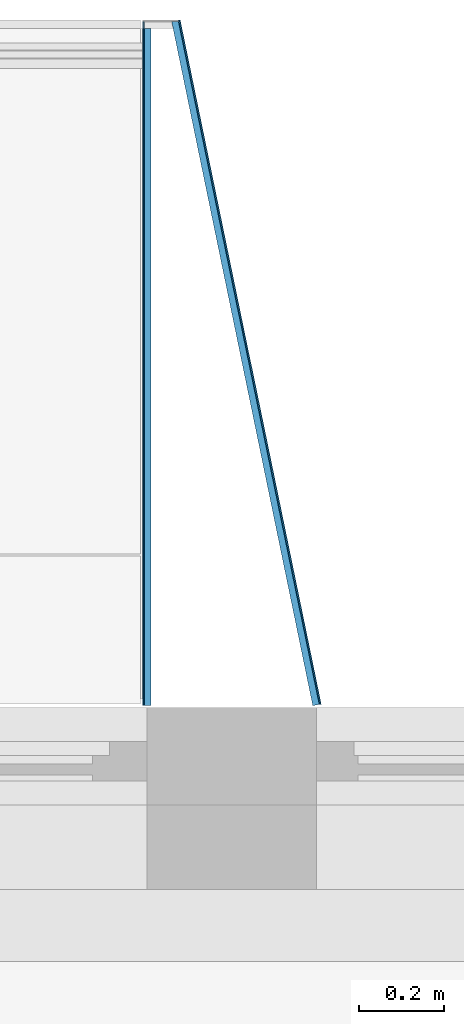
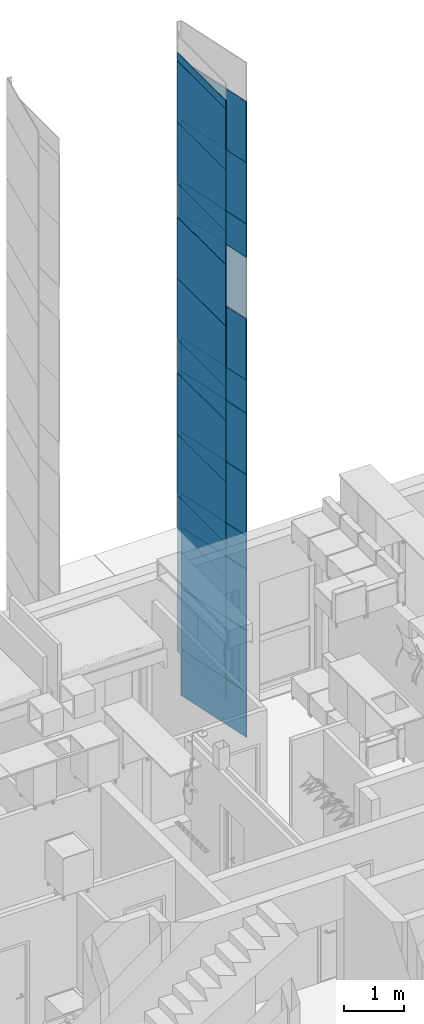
# One storey, part 23 of 125: 44 building element parts, 2 elements without a shape of their own.
"""IFC2X3 building model written with IfcOpenShell, lengths in millimetres."""

from ifc_helpers import new_model, entity, si_unit, converted_unit, direction, frame, frame_2d, origin, origin_2d_with_axis, place, context, subcontext, project, spatial, polyline, rectangle, outline, extrude, material, type_object, element, aggregate, save


model = new_model("IFC2X3")

# Units and contexts
model_context = context("Model", 3, precision=0.01, world=origin(), true_north=direction((6.123233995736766e-17, 1.0)))
plan_context = context("Plan", 3, precision=0.01, world=origin(), true_north=direction((6.123233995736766e-17, 1.0)))
body_context = subcontext(model_context, "Body", "Model", "MODEL_VIEW")
ifc_project = project(units=[si_unit("LENGTHUNIT", "METRE", prefix="MILLI"), converted_unit("PLANEANGLEUNIT", "DEGREE", entity("IfcPlaneAngleMeasure", 0.017453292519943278), si_unit("PLANEANGLEUNIT", "RADIAN"), dimensions=[0, 0, 0, 0, 0, 0, 0]), si_unit("AREAUNIT", "SQUARE_METRE")], contexts=[model_context, plan_context])

# Site, building, storey
site_placement = place(None, origin())
site = spatial("IfcSite", under=ifc_project, at=site_placement, Name="Default", CompositionType="ELEMENT")
building_placement = place(site_placement, origin())
building = spatial("IfcBuilding", under=site, at=building_placement, CompositionType="ELEMENT")
storey_placement = place(building_placement, frame((0.0, 0.0, 3125.0)))
storey = spatial("IfcBuildingStorey", under=building, at=storey_placement, Name="2K", CompositionType="ELEMENT", Elevation=3125.0)

# Wall, building element parts
wall_type = type_object("IfcWallType", Name="Basic Wall:VS-komposiit", PredefinedType="STANDARD")
wall_1_placement = place(storey_placement, frame((8626.138691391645, 15835.980173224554, -1010.0), z_axis=(0.0, 0.0, 1.0), x_axis=(-0.20198267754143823, 0.9793890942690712, 0.0)))
wall_1 = element("IfcWall", 1, at=wall_1_placement, inside=storey, type_object=wall_type, Name="Basic Wall:VS-komposiit", ObjectType="Basic Wall:VS-komposiit")
ifc_material_1 = material(Name="_K. Õhk. Roov. Fassaadikatte alusroov. Horisontaalne. 25 mm")
building_element_part_1_placement = place(wall_1_placement, origin())
building_element_part_1 = element("IfcBuildingElementPart", 2, at=building_element_part_1_placement, material=ifc_material_1, Name="Part", context=body_context, shape_type="SweptSolid", body=[
    extrude(outline(polyline([(158.09940945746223, -806.2118960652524), (174.4361239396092, -806.2118960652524), (-158.4326539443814, 807.8277574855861), (-174.10287945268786, 804.5960346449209), (158.09940945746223, -806.2118960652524)])), frame((823.1783473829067, 2.0, 6587.49999999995), z_axis=(0.0, 0.0, 1.0), x_axis=(0.20198267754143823, 0.9793890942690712, 0.0)), (0.0, 0.0, 1.0), 675.0000000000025),
])
building_element_part_2_placement = place(wall_1_placement, origin())
building_element_part_2 = element("IfcBuildingElementPart", 3, at=building_element_part_2_placement, material=ifc_material_1, Name="Part", context=body_context, shape_type="SweptSolid", body=[
    extrude(outline(polyline([(158.09940945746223, -806.2118960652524), (174.4361239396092, -806.2118960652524), (-158.4326539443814, 807.8277574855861), (-174.10287945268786, 804.5960346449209), (158.09940945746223, -806.2118960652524)])), frame((823.1783473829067, 2.0, 5342.49999999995), z_axis=(0.0, 0.0, 1.0), x_axis=(0.20198267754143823, 0.9793890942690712, 0.0)), (0.0, 0.0, 1.0), 1240.0000000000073),
])
building_element_part_3_placement = place(wall_1_placement, origin())
building_element_part_3 = element("IfcBuildingElementPart", 4, at=building_element_part_3_placement, material=ifc_material_1, Name="Part", context=body_context, shape_type="SweptSolid", body=[
    extrude(outline(polyline([(158.09940945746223, -806.2118960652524), (174.4361239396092, -806.2118960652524), (-158.4326539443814, 807.8277574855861), (-174.10287945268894, 804.5960346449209), (158.09940945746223, -806.2118960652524)])), frame((823.1783473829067, 2.0, 7267.499999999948), z_axis=(0.0, 0.0, 1.0), x_axis=(0.20198267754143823, 0.9793890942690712, 0.0)), (0.0, 0.0, 1.0), 1240.0000000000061),
])
building_element_part_4_placement = place(wall_1_placement, origin())
building_element_part_4 = element("IfcBuildingElementPart", 5, at=building_element_part_4_placement, material=ifc_material_1, Name="Part", context=body_context, shape_type="SweptSolid", body=[
    extrude(outline(polyline([(158.09940945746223, -806.2118960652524), (174.43612393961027, -806.2118960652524), (-158.4326539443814, 807.8277574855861), (-174.10287945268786, 804.5960346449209), (158.09940945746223, -806.2118960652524)])), frame((823.1783473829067, 2.0, 11682.499999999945), z_axis=(0.0, 0.0, 1.0), x_axis=(0.20198267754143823, 0.9793890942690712, 0.0)), (0.0, 0.0, 1.0), 1240.0000000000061),
])
building_element_part_5_placement = place(wall_1_placement, origin())
building_element_part_5 = element("IfcBuildingElementPart", 6, at=building_element_part_5_placement, material=ifc_material_1, Name="Part", context=body_context, shape_type="SweptSolid", body=[
    extrude(outline(polyline([(158.09940945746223, -806.2118960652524), (174.4361239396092, -806.2118960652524), (-158.4326539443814, 807.8277574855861), (-174.10287945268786, 804.5960346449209), (158.09940945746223, -806.2118960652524)])), frame((823.1783473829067, 2.0, 0.0), z_axis=(0.0, 0.0, 1.0), x_axis=(0.20198267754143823, 0.9793890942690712, 0.0)), (0.0, 0.0, 1.0), 922.4999999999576),
])
building_element_part_6_placement = place(wall_1_placement, origin())
building_element_part_6 = element("IfcBuildingElementPart", 7, at=building_element_part_6_placement, material=ifc_material_1, Name="Part", context=body_context, shape_type="SweptSolid", body=[
    extrude(outline(polyline([(158.09940945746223, -806.2118960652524), (174.4361239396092, -806.2118960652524), (-158.4326539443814, 807.8277574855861), (-174.10287945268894, 804.5960346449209), (158.09940945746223, -806.2118960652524)])), frame((823.1783473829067, 2.0, 3417.499999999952), z_axis=(0.0, 0.0, 1.0), x_axis=(0.20198267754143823, 0.9793890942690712, 0.0)), (0.0, 0.0, 1.0), 675.0000000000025),
])
building_element_part_7_placement = place(wall_1_placement, origin())
building_element_part_7 = element("IfcBuildingElementPart", 8, at=building_element_part_7_placement, material=ifc_material_1, Name="Part", context=body_context, shape_type="SweptSolid", body=[
    extrude(outline(polyline([(158.09940945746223, -806.2118960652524), (174.4361239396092, -806.2118960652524), (-158.4326539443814, 807.8277574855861), (-174.10287945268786, 804.5960346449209), (158.09940945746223, -806.2118960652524)])), frame((823.1783473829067, 2.0, 927.4999999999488), z_axis=(0.0, 0.0, 1.0), x_axis=(0.20198267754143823, 0.9793890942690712, 0.0)), (0.0, 0.0, 1.0), 1240.0000000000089),
])
building_element_part_8_placement = place(wall_1_placement, origin())
building_element_part_8 = element("IfcBuildingElementPart", 9, at=building_element_part_8_placement, material=ifc_material_1, Name="Part", context=body_context, shape_type="SweptSolid", body=[
    extrude(outline(polyline([(158.09940945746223, -806.2118960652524), (174.4361239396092, -806.2118960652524), (-158.4326539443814, 807.8277574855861), (-174.10287945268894, 804.5960346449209), (158.09940945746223, -806.2118960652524)])), frame((823.1783473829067, 2.0, 2172.49999999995), z_axis=(0.0, 0.0, 1.0), x_axis=(0.20198267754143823, 0.9793890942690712, 0.0)), (0.0, 0.0, 1.0), 1240.0000000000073),
])
building_element_part_9_placement = place(wall_1_placement, origin())
building_element_part_9 = element("IfcBuildingElementPart", 10, at=building_element_part_9_placement, material=ifc_material_1, Name="Part", context=body_context, shape_type="SweptSolid", body=[
    extrude(outline(polyline([(158.09940945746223, -806.2118960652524), (174.4361239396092, -806.2118960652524), (-158.4326539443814, 807.8277574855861), (-174.10287945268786, 804.5960346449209), (158.09940945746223, -806.2118960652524)])), frame((823.1783473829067, 2.0, 4097.499999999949), z_axis=(0.0, 0.0, 1.0), x_axis=(0.20198267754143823, 0.9793890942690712, 0.0)), (0.0, 0.0, 1.0), 1240.0000000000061),
])
ifc_material_2 = material(Name="_K. Välisviimistlus. Alumiinium-komposiitplaat")
building_element_part_10_placement = place(wall_1_placement, origin())
building_element_part_10 = element("IfcBuildingElementPart", 11, at=building_element_part_10_placement, material=ifc_material_2, Name="Part", context=body_context, shape_type="SweptSolid", body=[
    extrude(outline(polyline([(164.4298662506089, -807.2019826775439), (168.5140448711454, -807.2019826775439), (-164.51317737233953, 807.6059480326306), (-168.4307337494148, 806.7980173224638), (164.4298662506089, -807.2019826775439)])), frame((824.189270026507, -8.0, 8512.499999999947), z_axis=(0.0, 0.0, 1.0), x_axis=(0.20198267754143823, 0.9793890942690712, 0.0)), (0.0, 0.0, 1.0), 1240.0000000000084),
])
building_element_part_11_placement = place(wall_1_placement, origin())
building_element_part_11 = element("IfcBuildingElementPart", 12, at=building_element_part_11_placement, material=ifc_material_2, Name="Part", context=body_context, shape_type="SweptSolid", body=[
    extrude(outline(polyline([(164.4298662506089, -807.2019826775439), (168.5140448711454, -807.2019826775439), (-164.51317737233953, 807.6059480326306), (-168.4307337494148, 806.7980173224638), (164.4298662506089, -807.2019826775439)])), frame((824.189270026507, -8.0, 6587.49999999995), z_axis=(0.0, 0.0, 1.0), x_axis=(0.20198267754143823, 0.9793890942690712, 0.0)), (0.0, 0.0, 1.0), 675.0000000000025),
])
building_element_part_12_placement = place(wall_1_placement, origin())
building_element_part_12 = element("IfcBuildingElementPart", 13, at=building_element_part_12_placement, material=ifc_material_2, Name="Part", context=body_context, shape_type="SweptSolid", body=[
    extrude(outline(polyline([(164.4298662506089, -807.2019826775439), (168.5140448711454, -807.2019826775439), (-164.51317737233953, 807.6059480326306), (-168.4307337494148, 806.7980173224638), (164.4298662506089, -807.2019826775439)])), frame((824.189270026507, -8.0, 5342.49999999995), z_axis=(0.0, 0.0, 1.0), x_axis=(0.20198267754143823, 0.9793890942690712, 0.0)), (0.0, 0.0, 1.0), 1240.0000000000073),
])
building_element_part_13_placement = place(wall_1_placement, origin())
building_element_part_13 = element("IfcBuildingElementPart", 14, at=building_element_part_13_placement, material=ifc_material_2, Name="Part", context=body_context, shape_type="SweptSolid", body=[
    extrude(outline(polyline([(164.4298662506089, -807.2019826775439), (168.51404487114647, -807.2019826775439), (-164.51317737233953, 807.6059480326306), (-168.43073374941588, 806.7980173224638), (164.4298662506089, -807.2019826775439)])), frame((824.189270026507, -8.0, 7267.499999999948), z_axis=(0.0, 0.0, 1.0), x_axis=(0.20198267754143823, 0.9793890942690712, 0.0)), (0.0, 0.0, 1.0), 1240.0000000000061),
])
building_element_part_14_placement = place(wall_1_placement, origin())
building_element_part_14 = element("IfcBuildingElementPart", 15, at=building_element_part_14_placement, material=ifc_material_2, Name="Part", context=body_context, shape_type="SweptSolid", body=[
    extrude(outline(polyline([(164.4298662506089, -807.2019826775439), (168.5140448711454, -807.2019826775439), (-164.51317737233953, 807.6059480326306), (-168.4307337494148, 806.7980173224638), (164.4298662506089, -807.2019826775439)])), frame((824.189270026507, -8.0, 11682.499999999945), z_axis=(0.0, 0.0, 1.0), x_axis=(0.20198267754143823, 0.9793890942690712, 0.0)), (0.0, 0.0, 1.0), 1240.0000000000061),
])
building_element_part_15_placement = place(wall_1_placement, origin())
building_element_part_15 = element("IfcBuildingElementPart", 16, at=building_element_part_15_placement, material=ifc_material_2, Name="Part", context=body_context, shape_type="SweptSolid", body=[
    extrude(outline(polyline([(164.4298662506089, -807.2019826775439), (168.5140448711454, -807.2019826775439), (-164.51317737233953, 807.6059480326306), (-168.4307337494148, 806.7980173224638), (164.4298662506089, -807.2019826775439)])), frame((824.189270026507, -8.0, 0.0), z_axis=(0.0, 0.0, 1.0), x_axis=(0.20198267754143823, 0.9793890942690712, 0.0)), (0.0, 0.0, 1.0), 922.499999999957),
])
building_element_part_16_placement = place(wall_1_placement, origin())
building_element_part_16 = element("IfcBuildingElementPart", 17, at=building_element_part_16_placement, material=ifc_material_2, Name="Part", context=body_context, shape_type="SweptSolid", body=[
    extrude(outline(polyline([(164.4298662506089, -807.2019826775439), (168.51404487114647, -807.2019826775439), (-164.51317737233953, 807.6059480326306), (-168.43073374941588, 806.7980173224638), (164.4298662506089, -807.2019826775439)])), frame((824.189270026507, -8.0, 3417.499999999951), z_axis=(0.0, 0.0, 1.0), x_axis=(0.20198267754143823, 0.9793890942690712, 0.0)), (0.0, 0.0, 1.0), 675.0000000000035),
])
building_element_part_17_placement = place(wall_1_placement, origin())
building_element_part_17 = element("IfcBuildingElementPart", 18, at=building_element_part_17_placement, material=ifc_material_2, Name="Part", context=body_context, shape_type="SweptSolid", body=[
    extrude(outline(polyline([(164.4298662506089, -807.2019826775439), (168.5140448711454, -807.2019826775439), (-164.51317737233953, 807.6059480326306), (-168.43073374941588, 806.7980173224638), (164.4298662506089, -807.2019826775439)])), frame((824.189270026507, -8.0, 927.4999999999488), z_axis=(0.0, 0.0, 1.0), x_axis=(0.20198267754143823, 0.9793890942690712, 0.0)), (0.0, 0.0, 1.0), 1240.0000000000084),
])
building_element_part_18_placement = place(wall_1_placement, origin())
building_element_part_18 = element("IfcBuildingElementPart", 19, at=building_element_part_18_placement, material=ifc_material_2, Name="Part", context=body_context, shape_type="SweptSolid", body=[
    extrude(outline(polyline([(164.4298662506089, -807.2019826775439), (168.51404487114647, -807.2019826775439), (-164.51317737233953, 807.6059480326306), (-168.4307337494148, 806.7980173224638), (164.4298662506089, -807.2019826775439)])), frame((824.189270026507, -8.0, 2172.49999999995), z_axis=(0.0, 0.0, 1.0), x_axis=(0.20198267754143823, 0.9793890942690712, 0.0)), (0.0, 0.0, 1.0), 1240.0000000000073),
])
building_element_part_19_placement = place(wall_1_placement, origin())
building_element_part_19 = element("IfcBuildingElementPart", 20, at=building_element_part_19_placement, material=ifc_material_2, Name="Part", context=body_context, shape_type="SweptSolid", body=[
    extrude(outline(polyline([(164.4298662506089, -807.2019826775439), (168.5140448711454, -807.2019826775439), (-164.51317737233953, 807.6059480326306), (-168.43073374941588, 806.7980173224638), (164.4298662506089, -807.2019826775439)])), frame((824.189270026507, -8.0, 4097.499999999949), z_axis=(0.0, 0.0, 1.0), x_axis=(0.20198267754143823, 0.9793890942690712, 0.0)), (0.0, 0.0, 1.0), 1240.0000000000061),
])
building_element_part_20_placement = place(wall_1_placement, origin())
building_element_part_20 = element("IfcBuildingElementPart", 21, at=building_element_part_20_placement, material=ifc_material_1, Name="Part", context=body_context, shape_type="SweptSolid", body=[
    extrude(outline(polyline([(158.09940945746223, -806.2118960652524), (174.4361239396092, -806.2118960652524), (-158.4326539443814, 807.8277574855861), (-174.10287945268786, 804.5960346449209), (158.09940945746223, -806.2118960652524)])), frame((823.1783473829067, 2.0, 9757.499999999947), z_axis=(0.0, 0.0, 1.0), x_axis=(0.20198267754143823, 0.9793890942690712, 0.0)), (0.0, 0.0, 1.0), 675.0000000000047),
])
building_element_part_21_placement = place(wall_1_placement, origin())
building_element_part_21 = element("IfcBuildingElementPart", 22, at=building_element_part_21_placement, material=ifc_material_1, Name="Part", context=body_context, shape_type="SweptSolid", body=[
    extrude(outline(polyline([(158.09940945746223, -806.2118960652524), (174.43612393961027, -806.2118960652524), (-158.4326539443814, 807.8277574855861), (-174.10287945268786, 804.5960346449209), (158.09940945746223, -806.2118960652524)])), frame((823.1783473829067, 2.0, 10437.499999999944), z_axis=(0.0, 0.0, 1.0), x_axis=(0.20198267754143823, 0.9793890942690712, 0.0)), (0.0, 0.0, 1.0), 1240.0000000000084),
])
building_element_part_22_placement = place(wall_1_placement, origin())
building_element_part_22 = element("IfcBuildingElementPart", 23, at=building_element_part_22_placement, material=ifc_material_2, Name="Part", context=body_context, shape_type="SweptSolid", body=[
    extrude(outline(polyline([(164.42986625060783, -807.2019826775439), (168.51404487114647, -807.2019826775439), (-164.51317737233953, 807.6059480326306), (-168.4307337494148, 806.7980173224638), (164.42986625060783, -807.2019826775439)])), frame((824.189270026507, -8.0, 9757.499999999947), z_axis=(0.0, 0.0, 1.0), x_axis=(0.20198267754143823, 0.9793890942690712, 0.0)), (0.0, 0.0, 1.0), 675.0000000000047),
])
building_element_part_23_placement = place(wall_1_placement, origin())
building_element_part_23 = element("IfcBuildingElementPart", 24, at=building_element_part_23_placement, material=ifc_material_2, Name="Part", context=body_context, shape_type="SweptSolid", body=[
    extrude(outline(polyline([(164.4298662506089, -807.2019826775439), (168.5140448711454, -807.2019826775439), (-164.51317737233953, 807.6059480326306), (-168.4307337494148, 806.7980173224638), (164.4298662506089, -807.2019826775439)])), frame((824.189270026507, -8.0, 10437.499999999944), z_axis=(0.0, 0.0, 1.0), x_axis=(0.20198267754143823, 0.9793890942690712, 0.0)), (0.0, 0.0, 1.0), 1240.0000000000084),
])
aggregate(wall_1, [building_element_part_1, building_element_part_2, building_element_part_3, building_element_part_4, building_element_part_5, building_element_part_6, building_element_part_7, building_element_part_8, building_element_part_9, building_element_part_10, building_element_part_11, building_element_part_12, building_element_part_13, building_element_part_14, building_element_part_15, building_element_part_16, building_element_part_17, building_element_part_18, building_element_part_19, building_element_part_20, building_element_part_21, building_element_part_22, building_element_part_23])

wall_2_placement = place(storey_placement, frame((8225.0, 17432.0, -1010.0), z_axis=(0.0, 0.0, 1.0), x_axis=(0.0, -1.0, 0.0)))
wall_2 = element("IfcWall", 25, at=wall_2_placement, inside=storey, type_object=wall_type, Name="Basic Wall:VS-komposiit", ObjectType="Basic Wall:VS-komposiit")
building_element_part_24_placement = place(wall_2_placement, origin())
building_element_part_24 = element("IfcBuildingElementPart", 26, at=building_element_part_24_placement, material=ifc_material_2, Name="Part", context=body_context, shape_type="SweptSolid", body=[
    extrude(rectangle(XDim=1612.999999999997, YDim=4.000000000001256, at=frame_2d((0.0, -5.415667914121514e-13), x_axis=(1.0, 0.0))), frame((790.4999999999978, -8.0, 7267.499999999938)), (0.0, 0.0, 1.0), 1240.000000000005),
])
building_element_part_25_placement = place(wall_2_placement, origin())
building_element_part_25 = element("IfcBuildingElementPart", 27, at=building_element_part_25_placement, material=ifc_material_1, Name="Part", context=body_context, shape_type="SweptSolid", body=[
    extrude(rectangle(XDim=1596.9999999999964, YDim=15.99999999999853, at=frame_2d((0.0, -5.413447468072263e-13), x_axis=(1.0, 0.0))), frame((798.4999999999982, 2.0, 7267.499999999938)), (0.0, 0.0, 1.0), 1240.000000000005),
])
building_element_part_26_placement = place(wall_2_placement, origin())
building_element_part_26 = element("IfcBuildingElementPart", 28, at=building_element_part_26_placement, material=ifc_material_1, Name="Part", context=body_context, shape_type="SweptSolid", body=[
    extrude(rectangle(XDim=1596.9999999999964, YDim=15.99999999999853, at=frame_2d((0.0, 5.413447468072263e-13), x_axis=(1.0, 0.0))), frame((798.4999999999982, 2.0, 927.4999999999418)), (0.0, 0.0, 1.0), 1240.0000000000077),
])
building_element_part_27_placement = place(wall_2_placement, origin())
building_element_part_27 = element("IfcBuildingElementPart", 29, at=building_element_part_27_placement, material=ifc_material_1, Name="Part", context=body_context, shape_type="SweptSolid", body=[
    extrude(rectangle(XDim=1596.9999999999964, YDim=15.99999999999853, at=frame_2d((0.0, 5.413447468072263e-13), x_axis=(1.0, 0.0))), frame((798.4999999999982, 2.0, 2172.4999999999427)), (0.0, 0.0, 1.0), 1240.0000000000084),
])
building_element_part_28_placement = place(wall_2_placement, origin())
building_element_part_28 = element("IfcBuildingElementPart", 30, at=building_element_part_28_placement, material=ifc_material_1, Name="Part", context=body_context, shape_type="SweptSolid", body=[
    extrude(rectangle(XDim=1596.9999999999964, YDim=15.99999999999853, at=frame_2d((0.0, -5.413447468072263e-13), x_axis=(1.0, 0.0))), frame((798.4999999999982, 2.0, 4097.49999999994)), (0.0, 0.0, 1.0), 1240.0000000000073),
])
building_element_part_29_placement = place(wall_2_placement, origin())
building_element_part_29 = element("IfcBuildingElementPart", 31, at=building_element_part_29_placement, material=ifc_material_1, Name="Part", context=body_context, shape_type="SweptSolid", body=[
    extrude(rectangle(XDim=1596.9999999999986, YDim=15.999999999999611, at=origin_2d_with_axis()), frame((798.4999999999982, 2.0, 3417.499999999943)), (0.0, 0.0, 1.0), 675.0000000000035),
])
building_element_part_30_placement = place(wall_2_placement, origin())
building_element_part_30 = element("IfcBuildingElementPart", 32, at=building_element_part_30_placement, material=ifc_material_1, Name="Part", context=body_context, shape_type="SweptSolid", body=[
    extrude(rectangle(XDim=1596.9999999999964, YDim=15.99999999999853, at=frame_2d((0.0, 5.413447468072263e-13), x_axis=(1.0, 0.0))), frame((798.4999999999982, 2.0, 5342.499999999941)), (0.0, 0.0, 1.0), 1240.0000000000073),
])
building_element_part_31_placement = place(wall_2_placement, origin())
building_element_part_31 = element("IfcBuildingElementPart", 33, at=building_element_part_31_placement, material=ifc_material_1, Name="Part", context=body_context, shape_type="SweptSolid", body=[
    extrude(rectangle(XDim=1596.9999999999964, YDim=15.99999999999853, at=frame_2d((0.0, 5.413447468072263e-13), x_axis=(1.0, 0.0))), frame((798.4999999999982, 2.0, 6587.499999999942)), (0.0, 0.0, 1.0), 675.0000000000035),
])
building_element_part_32_placement = place(wall_2_placement, origin())
building_element_part_32 = element("IfcBuildingElementPart", 34, at=building_element_part_32_placement, material=ifc_material_1, Name="Part", context=body_context, shape_type="SweptSolid", body=[
    extrude(rectangle(XDim=1596.9999999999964, YDim=15.99999999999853, at=frame_2d((0.0, 5.413447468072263e-13), x_axis=(1.0, 0.0))), frame((798.4999999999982, 2.0, 11682.499999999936)), (0.0, 0.0, 1.0), 1240.0000000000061),
])
building_element_part_33_placement = place(wall_2_placement, origin())
building_element_part_33 = element("IfcBuildingElementPart", 35, at=building_element_part_33_placement, material=ifc_material_1, Name="Part", context=body_context, shape_type="SweptSolid", body=[
    extrude(rectangle(XDim=1596.9999999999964, YDim=15.99999999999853, at=frame_2d((0.0, -5.413447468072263e-13), x_axis=(1.0, 0.0))), frame((798.4999999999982, 2.0, 8512.499999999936)), (0.0, 0.0, 1.0), 1240.0000000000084),
])
building_element_part_34_placement = place(wall_2_placement, origin())
building_element_part_34 = element("IfcBuildingElementPart", 36, at=building_element_part_34_placement, material=ifc_material_1, Name="Part", context=body_context, shape_type="SweptSolid", body=[
    extrude(rectangle(XDim=1596.9999999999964, YDim=15.999999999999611, at=origin_2d_with_axis()), frame((798.4999999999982, 2.0, 10437.499999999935)), (0.0, 0.0, 1.0), 1240.0000000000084),
])
building_element_part_35_placement = place(wall_2_placement, origin())
building_element_part_35 = element("IfcBuildingElementPart", 37, at=building_element_part_35_placement, material=ifc_material_1, Name="Part", context=body_context, shape_type="SweptSolid", body=[
    extrude(rectangle(XDim=1596.9999999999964, YDim=15.99999999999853, at=origin_2d_with_axis()), frame((798.4999999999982, 2.0, 9757.499999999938)), (0.0, 0.0, 1.0), 675.0000000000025),
])
building_element_part_36_placement = place(wall_2_placement, origin())
building_element_part_36 = element("IfcBuildingElementPart", 38, at=building_element_part_36_placement, material=ifc_material_2, Name="Part", context=body_context, shape_type="SweptSolid", body=[
    extrude(rectangle(XDim=1612.999999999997, YDim=4.000000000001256, at=origin_2d_with_axis()), frame((790.4999999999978, -8.0, 927.4999999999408)), (0.0, 0.0, 1.0), 1240.0000000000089),
])
building_element_part_37_placement = place(wall_2_placement, origin())
building_element_part_37 = element("IfcBuildingElementPart", 39, at=building_element_part_37_placement, material=ifc_material_2, Name="Part", context=body_context, shape_type="SweptSolid", body=[
    extrude(rectangle(XDim=1612.999999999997, YDim=4.000000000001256, at=frame_2d((0.0, -5.415667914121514e-13), x_axis=(1.0, 0.0))), frame((790.4999999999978, -8.0, 2172.4999999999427)), (0.0, 0.0, 1.0), 1240.0000000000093),
])
building_element_part_38_placement = place(wall_2_placement, origin())
building_element_part_38 = element("IfcBuildingElementPart", 40, at=building_element_part_38_placement, material=ifc_material_2, Name="Part", context=body_context, shape_type="SweptSolid", body=[
    extrude(rectangle(XDim=1612.999999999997, YDim=4.000000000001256, at=frame_2d((0.0, -5.415667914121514e-13), x_axis=(1.0, 0.0))), frame((790.4999999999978, -8.0, 4097.49999999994)), (0.0, 0.0, 1.0), 1240.0000000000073),
])
building_element_part_39_placement = place(wall_2_placement, origin())
building_element_part_39 = element("IfcBuildingElementPart", 41, at=building_element_part_39_placement, material=ifc_material_2, Name="Part", context=body_context, shape_type="SweptSolid", body=[
    extrude(rectangle(XDim=1612.999999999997, YDim=4.000000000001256, at=frame_2d((0.0, -5.415667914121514e-13), x_axis=(1.0, 0.0))), frame((790.4999999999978, -8.0, 5342.499999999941)), (0.0, 0.0, 1.0), 1240.0000000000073),
])
building_element_part_40_placement = place(wall_2_placement, origin())
building_element_part_40 = element("IfcBuildingElementPart", 42, at=building_element_part_40_placement, material=ifc_material_2, Name="Part", context=body_context, shape_type="SweptSolid", body=[
    extrude(rectangle(XDim=1612.999999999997, YDim=4.000000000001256, at=frame_2d((0.0, -5.415667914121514e-13), x_axis=(1.0, 0.0))), frame((790.4999999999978, -8.0, 11682.499999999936)), (0.0, 0.0, 1.0), 1240.0000000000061),
])
building_element_part_41_placement = place(wall_2_placement, origin())
building_element_part_41 = element("IfcBuildingElementPart", 43, at=building_element_part_41_placement, material=ifc_material_2, Name="Part", context=body_context, shape_type="SweptSolid", body=[
    extrude(rectangle(XDim=1612.999999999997, YDim=4.000000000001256, at=frame_2d((0.0, -5.415667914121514e-13), x_axis=(1.0, 0.0))), frame((790.4999999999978, -8.0, 8512.499999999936)), (0.0, 0.0, 1.0), 1240.0000000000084),
])
building_element_part_42_placement = place(wall_2_placement, origin())
building_element_part_42 = element("IfcBuildingElementPart", 44, at=building_element_part_42_placement, material=ifc_material_2, Name="Part", context=body_context, shape_type="SweptSolid", body=[
    extrude(rectangle(XDim=1612.999999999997, YDim=4.0000000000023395, at=frame_2d((0.0, -1.0829115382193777e-12), x_axis=(1.0, 0.0))), frame((790.4999999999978, -8.0, 10437.499999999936)), (0.0, 0.0, 1.0), 1240.0000000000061),
])
building_element_part_43_placement = place(wall_2_placement, origin())
building_element_part_43 = element("IfcBuildingElementPart", 45, at=building_element_part_43_placement, material=ifc_material_1, Name="Part", context=body_context, shape_type="SweptSolid", body=[
    extrude(rectangle(XDim=1596.9999999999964, YDim=15.99999999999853, at=frame_2d((0.0, 5.413447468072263e-13), x_axis=(1.0, 0.0))), frame((798.4999999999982, 2.0, 12927.499999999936)), (0.0, 0.0, 1.0), 163.50000006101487),
])
building_element_part_44_placement = place(wall_2_placement, origin())
building_element_part_44 = element("IfcBuildingElementPart", 46, at=building_element_part_44_placement, material=ifc_material_2, Name="Part", context=body_context, shape_type="SweptSolid", body=[
    extrude(rectangle(XDim=1612.999999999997, YDim=4.000000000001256, at=frame_2d((0.0, -5.415667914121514e-13), x_axis=(1.0, 0.0))), frame((790.4999999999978, -8.0, 12927.499999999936)), (0.0, 0.0, 1.0), 163.50000006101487),
])
aggregate(wall_2, [building_element_part_24, building_element_part_25, building_element_part_26, building_element_part_27, building_element_part_28, building_element_part_29, building_element_part_30, building_element_part_31, building_element_part_32, building_element_part_33, building_element_part_34, building_element_part_35, building_element_part_36, building_element_part_37, building_element_part_38, building_element_part_39, building_element_part_40, building_element_part_41, building_element_part_42, building_element_part_43, building_element_part_44])

save(model, "model.ifc")
